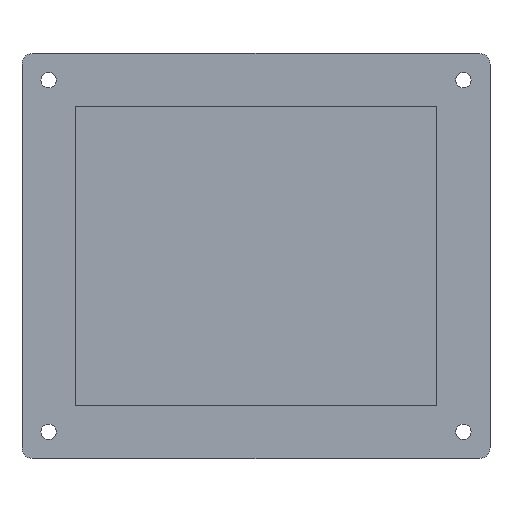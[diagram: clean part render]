
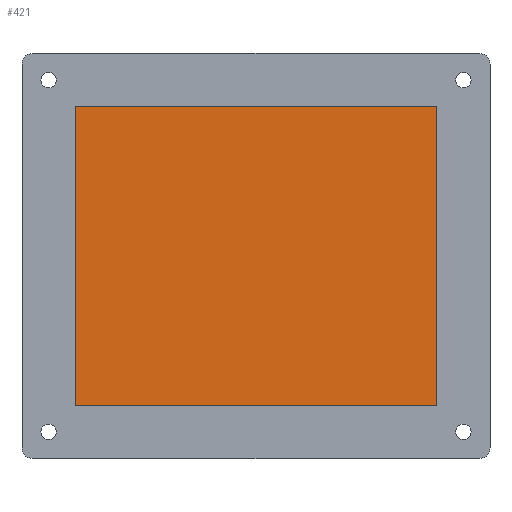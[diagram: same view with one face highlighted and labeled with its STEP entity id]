
A CAD part, front view. The second image highlights one B-rep face of the part: STEP entity #421.
In plain terms, the highlighted planar face has unit normal (0, -1, 0).
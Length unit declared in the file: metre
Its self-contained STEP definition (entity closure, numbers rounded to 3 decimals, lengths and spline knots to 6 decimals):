
#49=LINE('',#708,#81);
#52=LINE('',#714,#84);
#54=LINE('',#718,#86);
#56=LINE('',#722,#88);
#81=VECTOR('',#561,1.);
#84=VECTOR('',#566,1.);
#86=VECTOR('',#570,1.);
#88=VECTOR('',#574,1.);
#148=ORIENTED_EDGE('',*,*,#240,.F.);
#149=ORIENTED_EDGE('',*,*,#237,.T.);
#150=ORIENTED_EDGE('',*,*,#244,.T.);
#151=ORIENTED_EDGE('',*,*,#242,.F.);
#237=EDGE_CURVE('',#290,#291,#49,.T.);
#240=EDGE_CURVE('',#290,#292,#52,.T.);
#242=EDGE_CURVE('',#292,#293,#54,.T.);
#244=EDGE_CURVE('',#291,#293,#56,.T.);
#290=VERTEX_POINT('',#709);
#291=VERTEX_POINT('',#710);
#292=VERTEX_POINT('',#715);
#293=VERTEX_POINT('',#719);
#339=EDGE_LOOP('',(#148,#149,#150,#151));
#379=FACE_BOUND('',#339,.T.);
#410=PLANE('',#473);
#421=ADVANCED_FACE('',(#379),#410,.T.);
#473=AXIS2_PLACEMENT_3D('',#729,#580,#581);
#561=DIRECTION('',(0.,0.,1.));
#566=DIRECTION('',(-1.,0.,0.));
#570=DIRECTION('',(0.,0.,1.));
#574=DIRECTION('',(-1.,0.,0.));
#580=DIRECTION('',(0.,-1.,0.));
#581=DIRECTION('',(1.,0.,0.));
#708=CARTESIAN_POINT('',(0.0339,-0.005,0.));
#709=CARTESIAN_POINT('',(0.0339,-0.005,-0.028));
#710=CARTESIAN_POINT('',(0.0339,-0.005,0.028));
#714=CARTESIAN_POINT('',(0.,-0.005,-0.028));
#715=CARTESIAN_POINT('',(-0.0339,-0.005,-0.028));
#718=CARTESIAN_POINT('',(-0.0339,-0.005,0.));
#719=CARTESIAN_POINT('',(-0.0339,-0.005,0.028));
#722=CARTESIAN_POINT('',(0.,-0.005,0.028));
#729=CARTESIAN_POINT('',(0.,-0.005,0.));
